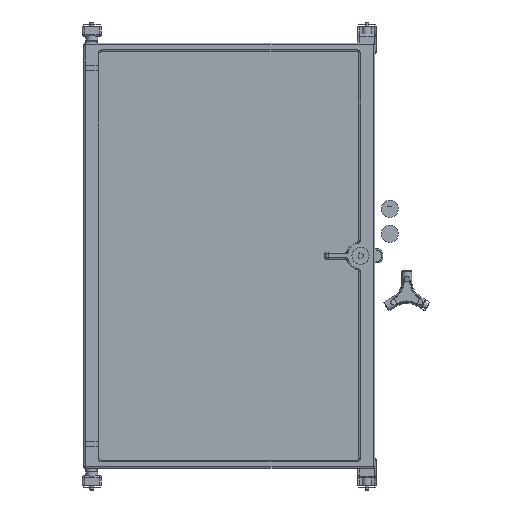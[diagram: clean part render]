
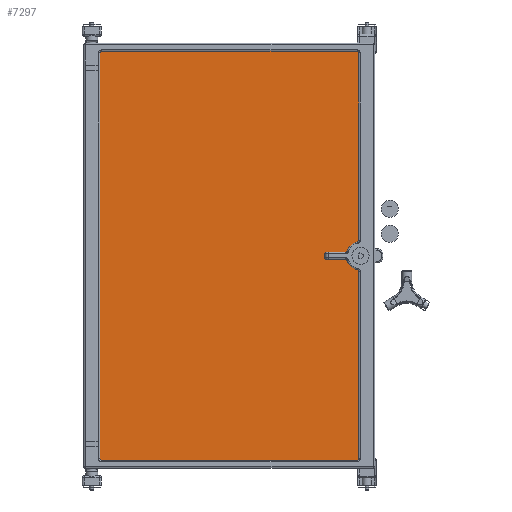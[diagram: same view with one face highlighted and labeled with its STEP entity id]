
A CAD part, front view. The second image highlights one B-rep face of the part: STEP entity #7297.
In plain terms, the highlighted planar face has unit normal (0, -1, 0).
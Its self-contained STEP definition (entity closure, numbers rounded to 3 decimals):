
#501=LINE('',#22886,#1561);
#502=LINE('',#22891,#1562);
#503=LINE('',#22895,#1563);
#504=LINE('',#22903,#1564);
#505=LINE('',#22907,#1565);
#506=LINE('',#22911,#1566);
#507=LINE('',#22919,#1567);
#508=LINE('',#22923,#1568);
#1561=VECTOR('',#17486,1.);
#1562=VECTOR('',#17489,1.);
#1563=VECTOR('',#17492,1.);
#1564=VECTOR('',#17499,1.);
#1565=VECTOR('',#17502,1.);
#1566=VECTOR('',#17505,1.);
#1567=VECTOR('',#17512,1.);
#1568=VECTOR('',#17515,1.);
#6375=PLANE('',#15358);
#6712=FACE_OUTER_BOUND('',#7960,.T.);
#7297=ADVANCED_FACE('',(#6712),#6375,.T.);
#7960=EDGE_LOOP('',(#9432,#9433,#9434,#9435,#9436,#9437,#9438,#9439,#9440,
#9441,#9442,#9443,#9444,#9445,#9446,#9447,#9448,#9449,#9450,#9451));
#9432=ORIENTED_EDGE('',*,*,#13119,.T.);
#9433=ORIENTED_EDGE('',*,*,#13120,.T.);
#9434=ORIENTED_EDGE('',*,*,#13121,.T.);
#9435=ORIENTED_EDGE('',*,*,#13122,.T.);
#9436=ORIENTED_EDGE('',*,*,#13123,.T.);
#9437=ORIENTED_EDGE('',*,*,#13124,.T.);
#9438=ORIENTED_EDGE('',*,*,#13125,.T.);
#9439=ORIENTED_EDGE('',*,*,#13126,.T.);
#9440=ORIENTED_EDGE('',*,*,#13127,.T.);
#9441=ORIENTED_EDGE('',*,*,#13128,.T.);
#9442=ORIENTED_EDGE('',*,*,#13129,.T.);
#9443=ORIENTED_EDGE('',*,*,#13130,.T.);
#9444=ORIENTED_EDGE('',*,*,#13131,.T.);
#9445=ORIENTED_EDGE('',*,*,#13132,.T.);
#9446=ORIENTED_EDGE('',*,*,#13133,.T.);
#9447=ORIENTED_EDGE('',*,*,#13134,.T.);
#9448=ORIENTED_EDGE('',*,*,#13135,.T.);
#9449=ORIENTED_EDGE('',*,*,#13136,.T.);
#9450=ORIENTED_EDGE('',*,*,#13137,.T.);
#9451=ORIENTED_EDGE('',*,*,#13138,.T.);
#11372=VERTEX_POINT('',#22887);
#11373=VERTEX_POINT('',#22888);
#11374=VERTEX_POINT('',#22890);
#11375=VERTEX_POINT('',#22892);
#11376=VERTEX_POINT('',#22894);
#11377=VERTEX_POINT('',#22896);
#11378=VERTEX_POINT('',#22898);
#11379=VERTEX_POINT('',#22900);
#11380=VERTEX_POINT('',#22902);
#11381=VERTEX_POINT('',#22904);
#11382=VERTEX_POINT('',#22906);
#11383=VERTEX_POINT('',#22908);
#11384=VERTEX_POINT('',#22910);
#11385=VERTEX_POINT('',#22912);
#11386=VERTEX_POINT('',#22914);
#11387=VERTEX_POINT('',#22916);
#11388=VERTEX_POINT('',#22918);
#11389=VERTEX_POINT('',#22920);
#11390=VERTEX_POINT('',#22922);
#11391=VERTEX_POINT('',#22924);
#13119=EDGE_CURVE('',#11372,#11373,#501,.T.);
#13120=EDGE_CURVE('',#11373,#11374,#14461,.T.);
#13121=EDGE_CURVE('',#11374,#11375,#502,.T.);
#13122=EDGE_CURVE('',#11375,#11376,#14462,.T.);
#13123=EDGE_CURVE('',#11376,#11377,#503,.T.);
#13124=EDGE_CURVE('',#11377,#11378,#14463,.T.);
#13125=EDGE_CURVE('',#11378,#11379,#14464,.T.);
#13126=EDGE_CURVE('',#11379,#11380,#14465,.T.);
#13127=EDGE_CURVE('',#11380,#11381,#504,.T.);
#13128=EDGE_CURVE('',#11381,#11382,#14466,.T.);
#13129=EDGE_CURVE('',#11382,#11383,#505,.T.);
#13130=EDGE_CURVE('',#11383,#11384,#14467,.T.);
#13131=EDGE_CURVE('',#11384,#11385,#506,.T.);
#13132=EDGE_CURVE('',#11385,#11386,#14468,.T.);
#13133=EDGE_CURVE('',#11386,#11387,#14469,.T.);
#13134=EDGE_CURVE('',#11387,#11388,#14470,.T.);
#13135=EDGE_CURVE('',#11388,#11389,#507,.T.);
#13136=EDGE_CURVE('',#11389,#11390,#14471,.T.);
#13137=EDGE_CURVE('',#11390,#11391,#508,.T.);
#13138=EDGE_CURVE('',#11391,#11372,#14472,.T.);
#14461=CIRCLE('',#15346,2.);
#14462=CIRCLE('',#15347,2.);
#14463=CIRCLE('',#15348,2.);
#14464=CIRCLE('',#15349,20.);
#14465=CIRCLE('',#15350,2.);
#14466=CIRCLE('',#15351,2.);
#14467=CIRCLE('',#15352,2.);
#14468=CIRCLE('',#15353,2.);
#14469=CIRCLE('',#15354,20.);
#14470=CIRCLE('',#15355,2.);
#14471=CIRCLE('',#15356,2.);
#14472=CIRCLE('',#15357,2.);
#15346=AXIS2_PLACEMENT_3D('',#22889,#17487,#17488);
#15347=AXIS2_PLACEMENT_3D('',#22893,#17490,#17491);
#15348=AXIS2_PLACEMENT_3D('',#22897,#17493,#17494);
#15349=AXIS2_PLACEMENT_3D('',#22899,#17495,#17496);
#15350=AXIS2_PLACEMENT_3D('',#22901,#17497,#17498);
#15351=AXIS2_PLACEMENT_3D('',#22905,#17500,#17501);
#15352=AXIS2_PLACEMENT_3D('',#22909,#17503,#17504);
#15353=AXIS2_PLACEMENT_3D('',#22913,#17506,#17507);
#15354=AXIS2_PLACEMENT_3D('',#22915,#17508,#17509);
#15355=AXIS2_PLACEMENT_3D('',#22917,#17510,#17511);
#15356=AXIS2_PLACEMENT_3D('',#22921,#17513,#17514);
#15357=AXIS2_PLACEMENT_3D('',#22925,#17516,#17517);
#15358=AXIS2_PLACEMENT_3D('',#22926,#17518,#17519);
#17486=DIRECTION('',(0.,0.,-1.));
#17487=DIRECTION('',(0.,-1.,0.));
#17488=DIRECTION('',(0.,0.,-1.));
#17489=DIRECTION('',(1.,0.,0.));
#17490=DIRECTION('',(0.,-1.,0.));
#17491=DIRECTION('',(1.,0.,0.));
#17492=DIRECTION('',(0.,0.,1.));
#17493=DIRECTION('',(0.,-1.,0.));
#17494=DIRECTION('',(0.205,0.,0.979));
#17495=DIRECTION('',(0.,1.,0.));
#17496=DIRECTION('',(-1.,0.,0.));
#17497=DIRECTION('',(0.,-1.,0.));
#17498=DIRECTION('',(0.,0.,1.));
#17499=DIRECTION('',(-1.,0.,0.));
#17500=DIRECTION('',(0.,1.,0.));
#17501=DIRECTION('',(-1.,0.,0.));
#17502=DIRECTION('',(0.,0.,1.));
#17503=DIRECTION('',(0.,1.,0.));
#17504=DIRECTION('',(-1.,0.,0.));
#17505=DIRECTION('',(1.,0.,0.));
#17506=DIRECTION('',(0.,-1.,0.));
#17507=DIRECTION('',(0.,0.,-1.));
#17508=DIRECTION('',(0.,1.,0.));
#17509=DIRECTION('',(-1.,0.,0.));
#17510=DIRECTION('',(0.,-1.,0.));
#17511=DIRECTION('',(0.205,0.,-0.979));
#17512=DIRECTION('',(0.,0.,1.));
#17513=DIRECTION('',(0.,-1.,0.));
#17514=DIRECTION('',(1.,0.,0.));
#17515=DIRECTION('',(-1.,0.,0.));
#17516=DIRECTION('',(0.,-1.,0.));
#17517=DIRECTION('',(0.,0.,1.));
#17518=DIRECTION('',(0.,-1.,0.));
#17519=DIRECTION('',(1.,0.,0.));
#22886=CARTESIAN_POINT('',(-111.5,12.106,-300.644));
#22887=CARTESIAN_POINT('',(-111.5,12.106,-15.894));
#22888=CARTESIAN_POINT('',(-111.5,12.106,-585.394));
#22889=CARTESIAN_POINT('',(-109.5,12.106,-585.394));
#22890=CARTESIAN_POINT('',(-109.5,12.106,-587.394));
#22891=CARTESIAN_POINT('',(70.,12.106,-587.394));
#22892=CARTESIAN_POINT('',(249.5,12.106,-587.394));
#22893=CARTESIAN_POINT('',(249.5,12.106,-585.394));
#22894=CARTESIAN_POINT('',(251.5,12.106,-585.394));
#22895=CARTESIAN_POINT('',(251.5,12.106,-453.786));
#22896=CARTESIAN_POINT('',(251.5,12.106,-322.179));
#22897=CARTESIAN_POINT('',(249.5,12.106,-322.179));
#22898=CARTESIAN_POINT('',(249.909,12.106,-320.221));
#22899=CARTESIAN_POINT('',(254.,12.106,-300.644));
#22900=CARTESIAN_POINT('',(235.039,12.106,-307.008));
#22901=CARTESIAN_POINT('',(233.143,12.106,-307.644));
#22902=CARTESIAN_POINT('',(233.143,12.106,-305.644));
#22903=CARTESIAN_POINT('',(219.572,12.106,-305.644));
#22904=CARTESIAN_POINT('',(206.,12.106,-305.644));
#22905=CARTESIAN_POINT('',(206.,12.106,-303.644));
#22906=CARTESIAN_POINT('',(204.,12.106,-303.644));
#22907=CARTESIAN_POINT('',(204.,12.106,-300.644));
#22908=CARTESIAN_POINT('',(204.,12.106,-297.644));
#22909=CARTESIAN_POINT('',(206.,12.106,-297.644));
#22910=CARTESIAN_POINT('',(206.,12.106,-295.644));
#22911=CARTESIAN_POINT('',(219.572,12.106,-295.644));
#22912=CARTESIAN_POINT('',(233.143,12.106,-295.644));
#22913=CARTESIAN_POINT('',(233.143,12.106,-293.644));
#22914=CARTESIAN_POINT('',(235.039,12.106,-294.28));
#22915=CARTESIAN_POINT('',(254.,12.106,-300.644));
#22916=CARTESIAN_POINT('',(249.909,12.106,-281.067));
#22917=CARTESIAN_POINT('',(249.5,12.106,-279.109));
#22918=CARTESIAN_POINT('',(251.5,12.106,-279.109));
#22919=CARTESIAN_POINT('',(251.5,12.106,-587.404));
#22920=CARTESIAN_POINT('',(251.5,12.106,-15.894));
#22921=CARTESIAN_POINT('',(249.5,12.106,-15.894));
#22922=CARTESIAN_POINT('',(249.5,12.106,-13.894));
#22923=CARTESIAN_POINT('',(70.,12.106,-13.894));
#22924=CARTESIAN_POINT('',(-109.5,12.106,-13.894));
#22925=CARTESIAN_POINT('',(-109.5,12.106,-15.894));
#22926=CARTESIAN_POINT('',(-111.51,12.106,-587.404));
